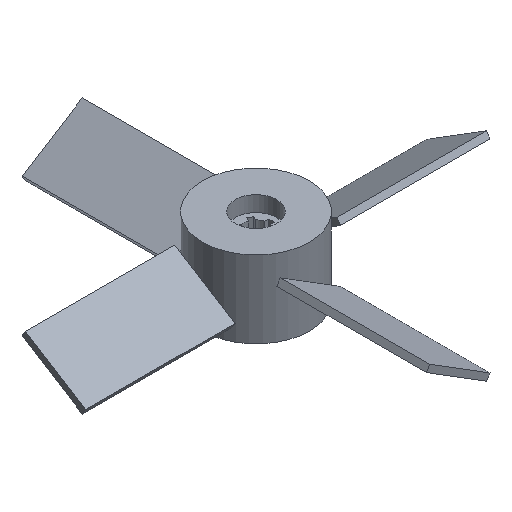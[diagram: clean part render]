
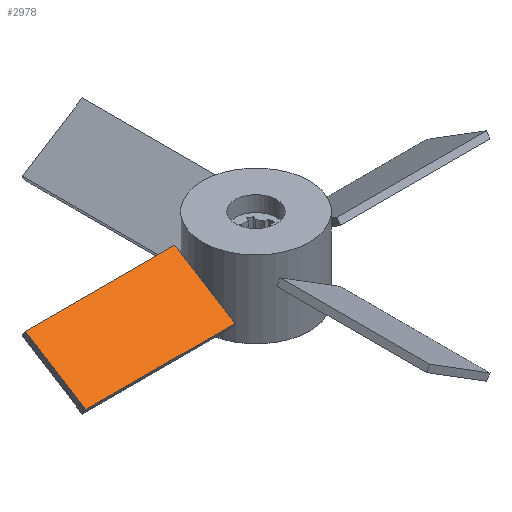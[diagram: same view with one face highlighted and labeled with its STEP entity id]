
A CAD part, isometric view. The second image highlights one B-rep face of the part: STEP entity #2978.
In plain terms, the highlighted planar face has unit normal (0, -0.53, 0.848).
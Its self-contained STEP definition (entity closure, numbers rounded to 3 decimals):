
#2664 = VERTEX_POINT('',#2665);
#2665 = CARTESIAN_POINT('',(-17.8,9.594,7.292));
#2672 = PLANE('',#2673);
#2673 = AXIS2_PLACEMENT_3D('',#2674,#2675,#2676);
#2674 = CARTESIAN_POINT('',(-17.8,10.759,5.426));
#2675 = DIRECTION('',(-1.,0.,0.));
#2676 = DIRECTION('',(0.,-0.53,0.848
    ));
#2684 = PLANE('',#2685);
#2685 = AXIS2_PLACEMENT_3D('',#2686,#2687,#2688);
#2686 = CARTESIAN_POINT('',(-17.8,10.759,5.426));
#2687 = DIRECTION('',(0.,-0.848,
    -0.53));
#2688 = DIRECTION('',(0.,-0.53,0.848
    ));
#2725 = VERTEX_POINT('',#2726);
#2726 = CARTESIAN_POINT('',(-17.8,-10.759,-5.426));
#2740 = PLANE('',#2741);
#2741 = AXIS2_PLACEMENT_3D('',#2742,#2743,#2744);
#2742 = CARTESIAN_POINT('',(-17.8,-9.594,-7.292));
#2743 = DIRECTION('',(0.,-0.848,
    -0.53));
#2744 = DIRECTION('',(0.,-0.53,0.848
    ));
#2752 = EDGE_CURVE('',#2664,#2725,#2753,.T.);
#2753 = SURFACE_CURVE('',#2754,(#2758,#2765),.PCURVE_S1.);
#2754 = LINE('',#2755,#2756);
#2755 = CARTESIAN_POINT('',(-17.8,9.594,7.292));
#2756 = VECTOR('',#2757,1.);
#2757 = DIRECTION('',(0.,-0.848,
    -0.53));
#2758 = PCURVE('',#2672,#2759);
#2759 = DEFINITIONAL_REPRESENTATION('',(#2760),#2764);
#2760 = LINE('',#2761,#2762);
#2761 = CARTESIAN_POINT('',(2.2,0.));
#2762 = VECTOR('',#2763,1.);
#2763 = DIRECTION('',(0.,-1.));
#2764 = ( GEOMETRIC_REPRESENTATION_CONTEXT(2) 
PARAMETRIC_REPRESENTATION_CONTEXT() REPRESENTATION_CONTEXT('2D SPACE',''
  ) );
#2765 = PCURVE('',#2766,#2771);
#2766 = PLANE('',#2767);
#2767 = AXIS2_PLACEMENT_3D('',#2768,#2769,#2770);
#2768 = CARTESIAN_POINT('',(-17.8,9.594,7.292));
#2769 = DIRECTION('',(0.,-0.53,0.848
    ));
#2770 = DIRECTION('',(-1.,0.,0.));
#2771 = DEFINITIONAL_REPRESENTATION('',(#2772),#2776);
#2772 = LINE('',#2773,#2774);
#2773 = CARTESIAN_POINT('',(0.,0.));
#2774 = VECTOR('',#2775,1.);
#2775 = DIRECTION('',(0.,1.));
#2776 = ( GEOMETRIC_REPRESENTATION_CONTEXT(2) 
PARAMETRIC_REPRESENTATION_CONTEXT() REPRESENTATION_CONTEXT('2D SPACE',''
  ) );
#2784 = VERTEX_POINT('',#2785);
#2785 = CARTESIAN_POINT('',(-68.3,9.594,7.292));
#2792 = PLANE('',#2793);
#2793 = AXIS2_PLACEMENT_3D('',#2794,#2795,#2796);
#2794 = CARTESIAN_POINT('',(-68.3,10.759,5.426));
#2795 = DIRECTION('',(-1.,0.,0.));
#2796 = DIRECTION('',(0.,-0.53,0.848
    ));
#2835 = VERTEX_POINT('',#2836);
#2836 = CARTESIAN_POINT('',(-68.3,-10.759,-5.426));
#2857 = EDGE_CURVE('',#2784,#2835,#2858,.T.);
#2858 = SURFACE_CURVE('',#2859,(#2863,#2870),.PCURVE_S1.);
#2859 = LINE('',#2860,#2861);
#2860 = CARTESIAN_POINT('',(-68.3,9.594,7.292));
#2861 = VECTOR('',#2862,1.);
#2862 = DIRECTION('',(0.,-0.848,
    -0.53));
#2863 = PCURVE('',#2792,#2864);
#2864 = DEFINITIONAL_REPRESENTATION('',(#2865),#2869);
#2865 = LINE('',#2866,#2867);
#2866 = CARTESIAN_POINT('',(2.2,0.));
#2867 = VECTOR('',#2868,1.);
#2868 = DIRECTION('',(0.,-1.));
#2869 = ( GEOMETRIC_REPRESENTATION_CONTEXT(2) 
PARAMETRIC_REPRESENTATION_CONTEXT() REPRESENTATION_CONTEXT('2D SPACE',''
  ) );
#2870 = PCURVE('',#2766,#2871);
#2871 = DEFINITIONAL_REPRESENTATION('',(#2872),#2876);
#2872 = LINE('',#2873,#2874);
#2873 = CARTESIAN_POINT('',(50.5,0.));
#2874 = VECTOR('',#2875,1.);
#2875 = DIRECTION('',(0.,1.));
#2876 = ( GEOMETRIC_REPRESENTATION_CONTEXT(2) 
PARAMETRIC_REPRESENTATION_CONTEXT() REPRESENTATION_CONTEXT('2D SPACE',''
  ) );
#2903 = EDGE_CURVE('',#2664,#2784,#2904,.T.);
#2904 = SURFACE_CURVE('',#2905,(#2909,#2916),.PCURVE_S1.);
#2905 = LINE('',#2906,#2907);
#2906 = CARTESIAN_POINT('',(-17.8,9.594,7.292));
#2907 = VECTOR('',#2908,1.);
#2908 = DIRECTION('',(-1.,0.,0.));
#2909 = PCURVE('',#2684,#2910);
#2910 = DEFINITIONAL_REPRESENTATION('',(#2911),#2915);
#2911 = LINE('',#2912,#2913);
#2912 = CARTESIAN_POINT('',(2.2,0.));
#2913 = VECTOR('',#2914,1.);
#2914 = DIRECTION('',(0.,1.));
#2915 = ( GEOMETRIC_REPRESENTATION_CONTEXT(2) 
PARAMETRIC_REPRESENTATION_CONTEXT() REPRESENTATION_CONTEXT('2D SPACE',''
  ) );
#2916 = PCURVE('',#2766,#2917);
#2917 = DEFINITIONAL_REPRESENTATION('',(#2918),#2922);
#2918 = LINE('',#2919,#2920);
#2919 = CARTESIAN_POINT('',(0.,0.));
#2920 = VECTOR('',#2921,1.);
#2921 = DIRECTION('',(1.,0.));
#2922 = ( GEOMETRIC_REPRESENTATION_CONTEXT(2) 
PARAMETRIC_REPRESENTATION_CONTEXT() REPRESENTATION_CONTEXT('2D SPACE',''
  ) );
#2950 = EDGE_CURVE('',#2725,#2835,#2951,.T.);
#2951 = SURFACE_CURVE('',#2952,(#2956,#2963),.PCURVE_S1.);
#2952 = LINE('',#2953,#2954);
#2953 = CARTESIAN_POINT('',(-17.8,-10.759,-5.426));
#2954 = VECTOR('',#2955,1.);
#2955 = DIRECTION('',(-1.,0.,0.));
#2956 = PCURVE('',#2740,#2957);
#2957 = DEFINITIONAL_REPRESENTATION('',(#2958),#2962);
#2958 = LINE('',#2959,#2960);
#2959 = CARTESIAN_POINT('',(2.2,0.));
#2960 = VECTOR('',#2961,1.);
#2961 = DIRECTION('',(0.,1.));
#2962 = ( GEOMETRIC_REPRESENTATION_CONTEXT(2) 
PARAMETRIC_REPRESENTATION_CONTEXT() REPRESENTATION_CONTEXT('2D SPACE',''
  ) );
#2963 = PCURVE('',#2766,#2964);
#2964 = DEFINITIONAL_REPRESENTATION('',(#2965),#2969);
#2965 = LINE('',#2966,#2967);
#2966 = CARTESIAN_POINT('',(0.,24.));
#2967 = VECTOR('',#2968,1.);
#2968 = DIRECTION('',(1.,0.));
#2969 = ( GEOMETRIC_REPRESENTATION_CONTEXT(2) 
PARAMETRIC_REPRESENTATION_CONTEXT() REPRESENTATION_CONTEXT('2D SPACE',''
  ) );
#2978 = ADVANCED_FACE('',(#2979),#2766,.T.);
#2979 = FACE_BOUND('',#2980,.T.);
#2980 = EDGE_LOOP('',(#2981,#2982,#2983,#2984));
#2981 = ORIENTED_EDGE('',*,*,#2752,.F.);
#2982 = ORIENTED_EDGE('',*,*,#2903,.T.);
#2983 = ORIENTED_EDGE('',*,*,#2857,.T.);
#2984 = ORIENTED_EDGE('',*,*,#2950,.F.);
